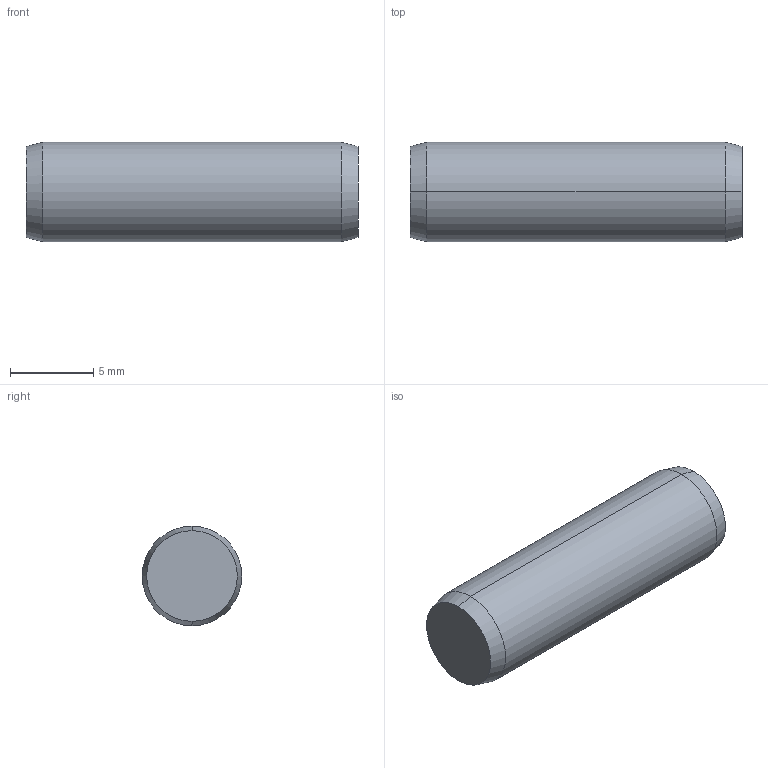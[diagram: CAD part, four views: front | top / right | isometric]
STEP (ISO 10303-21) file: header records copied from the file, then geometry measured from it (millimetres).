
FILE_DESCRIPTION (( 'STEP AP203' ), '1' );
FILE_NAME ('P1206.060-020.step', '2017-06-14T08:20:37', ( 'User' ), ( '' ), 'SwSTEP 2.0', 'SolidWorks 2009', '' );
FILE_SCHEMA (( 'CONFIG_CONTROL_DESIGN' ));
Length unit declared in the file: millimetre
Products named in the file (1): P1206.060-020
Bounding box: 20 x 6 x 6 mm (x, y, z)
Volume: 560.6 mm3; surface area: 423.5 mm2
Topology: 1 solids, 1 shells, 8 faces, 14 edges, 8 vertices
Faces by surface type: cone 4, cylinder 2, plane 2
Entity records: 271 total; most frequent: DIRECTION 40, CARTESIAN_POINT 31, ORIENTED_EDGE 28, AXIS2_PLACEMENT_3D 17, EDGE_CURVE 14, ADVANCED_FACE 8, VERTEX_POINT 8, EDGE_LOOP 8
